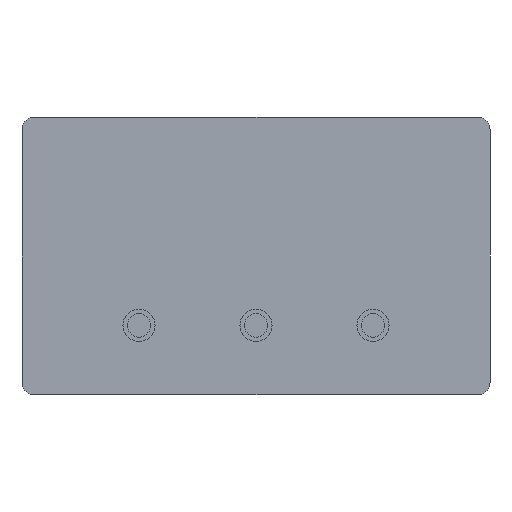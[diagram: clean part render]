
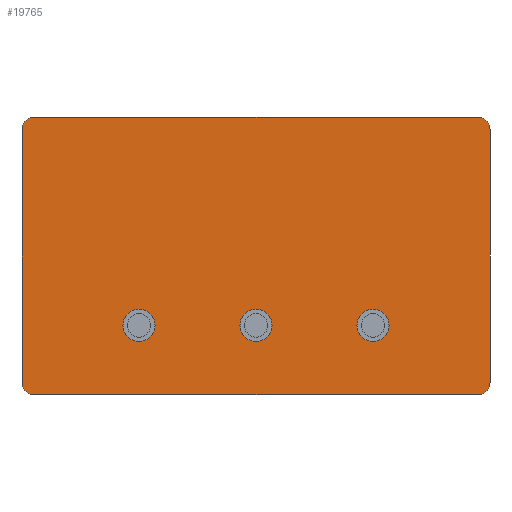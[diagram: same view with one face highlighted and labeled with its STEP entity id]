
A CAD part, front view. The second image highlights one B-rep face of the part: STEP entity #19765.
In plain terms, the highlighted planar face has unit normal (0, -1, 0).
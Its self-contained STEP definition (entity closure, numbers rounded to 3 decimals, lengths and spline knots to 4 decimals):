
#1441=CIRCLE('',#20959,0.05);
#1443=CIRCLE('',#20963,0.05);
#1445=CIRCLE('',#20967,0.05);
#1451=CIRCLE('',#20978,0.0394);
#1455=CIRCLE('',#20984,0.0394);
#1459=CIRCLE('',#20990,0.0394);
#1463=CIRCLE('',#20997,0.0394);
#2079=FACE_BOUND('',#4383,.T.);
#2080=FACE_BOUND('',#4384,.T.);
#2081=FACE_BOUND('',#4385,.T.);
#2250=PLANE('',#21006);
#3185=FACE_OUTER_BOUND('',#4382,.T.);
#4382=EDGE_LOOP('',(#13960,#13961,#13962,#13963,#13964,#13965,#13966,#13967));
#4383=EDGE_LOOP('',(#13968));
#4384=EDGE_LOOP('',(#13969));
#4385=EDGE_LOOP('',(#13970));
#5626=LINE('',#31024,#6585);
#5750=LINE('',#31870,#6709);
#5751=LINE('',#31873,#6710);
#5752=LINE('',#31875,#6711);
#6585=VECTOR('',#23856,0.3937);
#6709=VECTOR('',#24152,0.3937);
#6710=VECTOR('',#24157,0.3937);
#6711=VECTOR('',#24160,0.3937);
#8017=VERTEX_POINT('',#31018);
#8019=VERTEX_POINT('',#31022);
#8137=VERTEX_POINT('',#31786);
#8139=VERTEX_POINT('',#31793);
#8141=VERTEX_POINT('',#31800);
#8146=VERTEX_POINT('',#31818);
#8150=VERTEX_POINT('',#31829);
#8151=VERTEX_POINT('',#31830);
#8154=VERTEX_POINT('',#31841);
#8158=VERTEX_POINT('',#31854);
#8159=VERTEX_POINT('',#31855);
#10187=EDGE_CURVE('',#8019,#8017,#5626,.T.);
#10364=EDGE_CURVE('',#8137,#8137,#1441,.T.);
#10367=EDGE_CURVE('',#8139,#8139,#1443,.T.);
#10370=EDGE_CURVE('',#8141,#8141,#1445,.T.);
#10377=EDGE_CURVE('',#8017,#8146,#1451,.T.);
#10382=EDGE_CURVE('',#8150,#8151,#1455,.T.);
#10388=EDGE_CURVE('',#8154,#8019,#1459,.T.);
#10394=EDGE_CURVE('',#8158,#8159,#1463,.T.);
#10403=EDGE_CURVE('',#8159,#8154,#5750,.T.);
#10404=EDGE_CURVE('',#8151,#8158,#5751,.T.);
#10405=EDGE_CURVE('',#8146,#8150,#5752,.T.);
#13960=ORIENTED_EDGE('',*,*,#10377,.F.);
#13961=ORIENTED_EDGE('',*,*,#10187,.F.);
#13962=ORIENTED_EDGE('',*,*,#10388,.F.);
#13963=ORIENTED_EDGE('',*,*,#10403,.F.);
#13964=ORIENTED_EDGE('',*,*,#10394,.F.);
#13965=ORIENTED_EDGE('',*,*,#10404,.F.);
#13966=ORIENTED_EDGE('',*,*,#10382,.F.);
#13967=ORIENTED_EDGE('',*,*,#10405,.F.);
#13968=ORIENTED_EDGE('',*,*,#10364,.T.);
#13969=ORIENTED_EDGE('',*,*,#10367,.T.);
#13970=ORIENTED_EDGE('',*,*,#10370,.T.);
#19765=ADVANCED_FACE('',(#3185,#2079,#2080,#2081),#2250,.T.);
#20959=AXIS2_PLACEMENT_3D('',#31788,#24048,#24049);
#20963=AXIS2_PLACEMENT_3D('',#31795,#24057,#24058);
#20967=AXIS2_PLACEMENT_3D('',#31802,#24066,#24067);
#20978=AXIS2_PLACEMENT_3D('',#31819,#24089,#24090);
#20984=AXIS2_PLACEMENT_3D('',#31831,#24102,#24103);
#20990=AXIS2_PLACEMENT_3D('',#31842,#24116,#24117);
#20997=AXIS2_PLACEMENT_3D('',#31856,#24132,#24133);
#21006=AXIS2_PLACEMENT_3D('',#31876,#24161,#24162);
#23856=DIRECTION('',(1.,0.,0.));
#24048=DIRECTION('center_axis',(0.,1.,0.));
#24049=DIRECTION('ref_axis',(-1.,0.,0.));
#24057=DIRECTION('center_axis',(0.,1.,0.));
#24058=DIRECTION('ref_axis',(-1.,0.,0.));
#24066=DIRECTION('center_axis',(0.,1.,0.));
#24067=DIRECTION('ref_axis',(-1.,0.,0.));
#24089=DIRECTION('center_axis',(0.,1.,0.));
#24090=DIRECTION('ref_axis',(0.707,0.,0.707));
#24102=DIRECTION('center_axis',(0.,1.,0.));
#24103=DIRECTION('ref_axis',(0.707,0.,-0.707));
#24116=DIRECTION('center_axis',(0.,1.,0.));
#24117=DIRECTION('ref_axis',(-0.707,0.,0.707));
#24132=DIRECTION('center_axis',(0.,1.,0.));
#24133=DIRECTION('ref_axis',(-0.707,0.,-0.707));
#24152=DIRECTION('',(0.,0.,1.));
#24157=DIRECTION('',(-1.,0.,0.));
#24160=DIRECTION('',(0.,0.,-1.));
#24161=DIRECTION('center_axis',(0.,-1.,0.));
#24162=DIRECTION('ref_axis',(0.,0.,-1.));
#31018=CARTESIAN_POINT('',(1.4206,0.,0.));
#31022=CARTESIAN_POINT('',(0.0394,0.,0.));
#31024=CARTESIAN_POINT('',(0.,0.,0.));
#31786=CARTESIAN_POINT('',(0.78,0.,-0.6495));
#31788=CARTESIAN_POINT('Origin',(0.73,0.,-0.6495));
#31793=CARTESIAN_POINT('',(1.145,0.,-0.6495));
#31795=CARTESIAN_POINT('Origin',(1.095,0.,-0.6495));
#31800=CARTESIAN_POINT('',(0.415,0.,-0.6495));
#31802=CARTESIAN_POINT('Origin',(0.365,0.,-0.6495));
#31818=CARTESIAN_POINT('',(1.46,0.,-0.0394));
#31819=CARTESIAN_POINT('Origin',(1.4206,0.,-0.0394));
#31829=CARTESIAN_POINT('',(1.46,0.,-0.8266));
#31830=CARTESIAN_POINT('',(1.4206,0.,-0.866));
#31831=CARTESIAN_POINT('Origin',(1.4206,0.,-0.8266));
#31841=CARTESIAN_POINT('',(0.,0.,-0.0394));
#31842=CARTESIAN_POINT('Origin',(0.0394,0.,-0.0394));
#31854=CARTESIAN_POINT('',(0.0394,0.,-0.866));
#31855=CARTESIAN_POINT('',(0.,0.,-0.8266));
#31856=CARTESIAN_POINT('Origin',(0.0394,0.,-0.8266));
#31870=CARTESIAN_POINT('',(0.,0.,-0.866));
#31873=CARTESIAN_POINT('',(1.46,0.,-0.866));
#31875=CARTESIAN_POINT('',(1.46,0.,0.));
#31876=CARTESIAN_POINT('Origin',(0.73,0.,-0.433));
